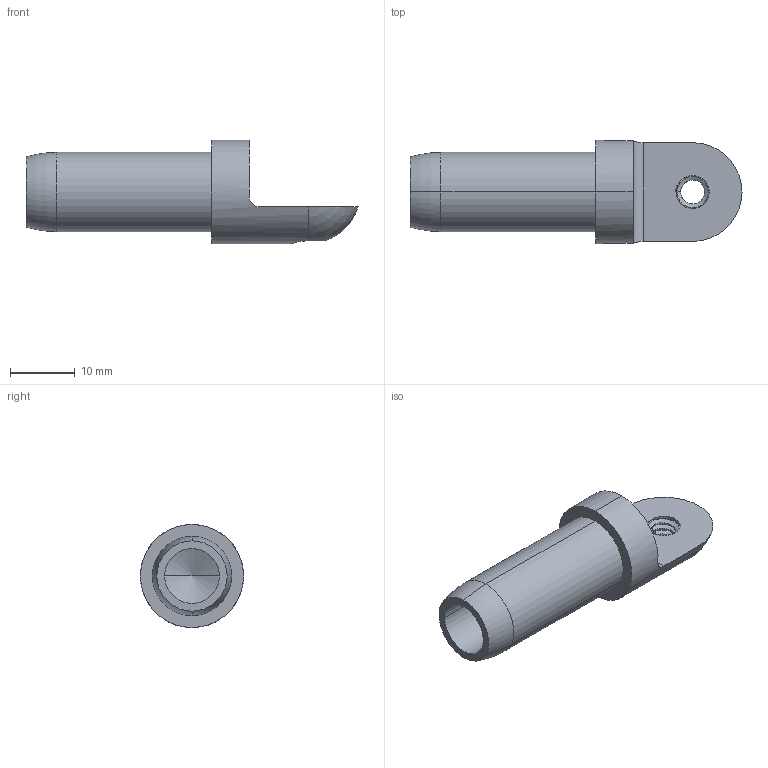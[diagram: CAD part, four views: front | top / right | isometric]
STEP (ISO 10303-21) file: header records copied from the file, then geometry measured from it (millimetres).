
FILE_DESCRIPTION (( 'STEP AP214' ), '1' );
FILE_NAME ('0.500 In. Single Sided Clevis Threaded Connector.STEP', '2014-08-07T18:50:09', ( 'ydmin' ), ( 'Microsoft' ), 'SwSTEP 2.0', 'SolidWorks 2013', '' );
FILE_SCHEMA (( 'AUTOMOTIVE_DESIGN' ));
Length unit declared in the file: inch
Products named in the file (1): 0.500 In. Single Sided Clevis Threaded Connector
Bounding box: 51.1 x 15.88 x 15.88 mm (x, y, z)
Volume: 3578.9 mm3; surface area: 3277.2 mm2
Topology: 2 solids, 2 shells, 29 faces, 69 edges, 43 vertices
Faces by surface type: cylinder 9, bspline 8, plane 6, torus 2, sphere 2, cone 2
Entity records: 2660 total; most frequent: CARTESIAN_POINT 1622, ORIENTED_EDGE 134, DIRECTION 116, EDGE_CURVE 67, AXIS2_PLACEMENT_3D 47, VERTEX_POINT 43, DIMENSIONAL_EXPONENTS 33, UNCERTAINTY_MEASURE_WITH_UNIT 33
